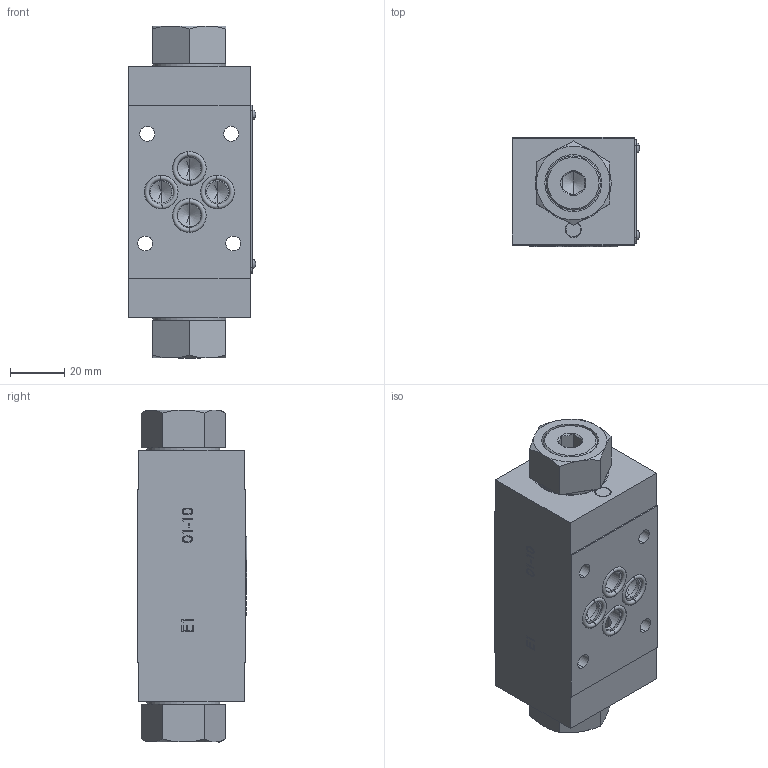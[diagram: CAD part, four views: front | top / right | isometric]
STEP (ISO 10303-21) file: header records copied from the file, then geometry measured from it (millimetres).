
FILE_DESCRIPTION (( 'STEP AP214' ), '1' );
FILE_NAME ('FT357-8-AB-RP3-03.STEP', '2014-06-19T12:29:59', ( '' ), ( '' ), 'SwSTEP 2.0', 'SolidWorks 2014', '' );
FILE_SCHEMA (( 'AUTOMOTIVE_DESIGN' ));
Length unit declared in the file: millimetre
Products named in the file (11): 357-8-AB-RP3-021-00-0-1-03_G3|8"; HK060CK55-111; OR2037; FT357-8-AB-RP3-03; 357-8-AB-RP5-019-00-0; 257-5-008-00-0-1-38-B; 357-8-AB-RP3.101.00.0-03; 357-8-AB-RP5-001-00-0; 257-6-009-00-0-1-38; RIVETTO 375-4-P; 357-8-AB-RP3-015-00-0
Assembly tree (21 placements, depth 2):
  FT357-8-AB-RP3-03
    OR2037  x4
    HK060CK55-111  x2
    357-8-AB-RP3-021-00-0-1-03_G3|8"  x2
    357-8-AB-RP3-015-00-0
    RIVETTO 375-4-P  x4
    257-6-009-00-0-1-38  x2
    357-8-AB-RP5-001-00-0
    357-8-AB-RP3.101.00.0-03  x2
    257-5-008-00-0-1-38-B  x2
    357-8-AB-RP5-019-00-0
Bounding box: 47 x 40.44 x 122.6 mm (x, y, z)
Volume: 171150.2 mm3; surface area: 57969.2 mm2
Topology: 21 solids, 21 shells, 2008 faces, 5017 edges, 3236 vertices
Faces by surface type: plane 1062, bspline 392, cylinder 330, cone 188, torus 36
Entity records: 94949 total; most frequent: CARTESIAN_POINT 41135, ORIENTED_EDGE 8946, DIRECTION 6943, EDGE_CURVE 4473, VECTOR 3059, LINE 3059, VERTEX_POINT 2930, EDGE_LOOP 2023
